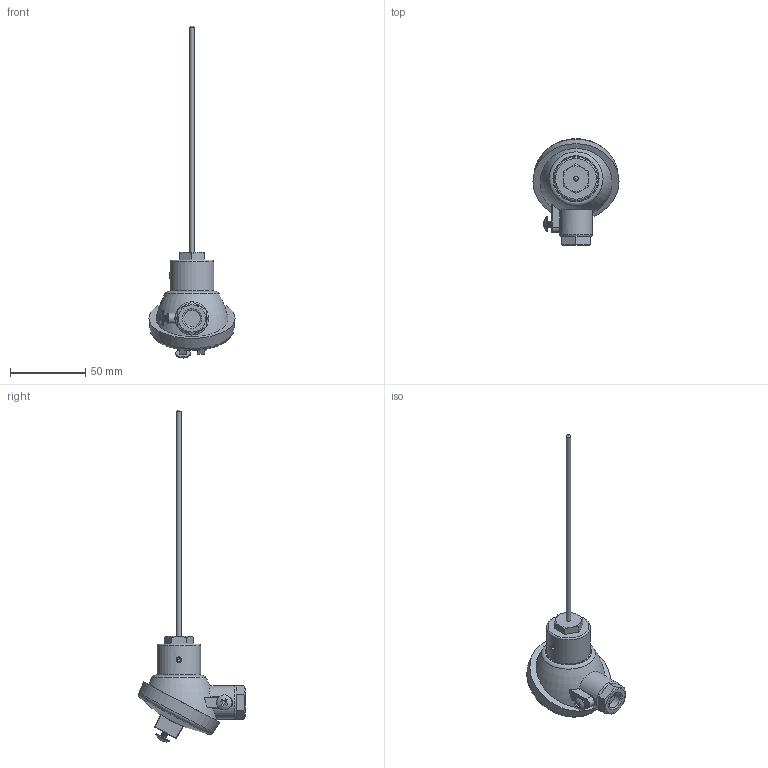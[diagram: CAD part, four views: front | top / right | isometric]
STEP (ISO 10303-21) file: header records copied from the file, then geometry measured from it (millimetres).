
FILE_DESCRIPTION (( 'STEP AP203' ), '1' );
FILE_NAME ('YIT30_2(0).STEP', '2024-06-27T06:16:55', ( '' ), ( '' ), 'SwSTEP 2.0', 'SolidWorks 2021', '' );
FILE_SCHEMA (( 'CONFIG_CONTROL_DESIGN' ));
Length unit declared in the file: millimetre
Products named in the file (1): YIT30_2(0)
Bounding box: 57 x 70.64 x 219.9 mm (x, y, z)
Volume: 79072.8 mm3; surface area: 15499.5 mm2
Topology: 1 solids, 2 shells, 186 faces, 445 edges, 275 vertices
Faces by surface type: plane 88, cylinder 47, bspline 19, cone 13, torus 11, sphere 8
Full cylindrical faces by diameter (mm): 3 x1, 3.5 x3, 3.6 x1, 3.8 x10, 10 x2, 11 x1, 16 x1, 16.5 x1, 22 x1, 29 x1
Entity records: 7863 total; most frequent: CARTESIAN_POINT 4280, ORIENTED_EDGE 714, DIRECTION 677, EDGE_CURVE 357, AXIS2_PLACEMENT_3D 263, VERTEX_POINT 230, EDGE_LOOP 217, FACE_OUTER_BOUND 195
